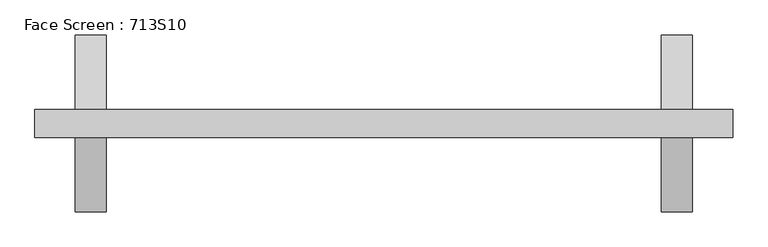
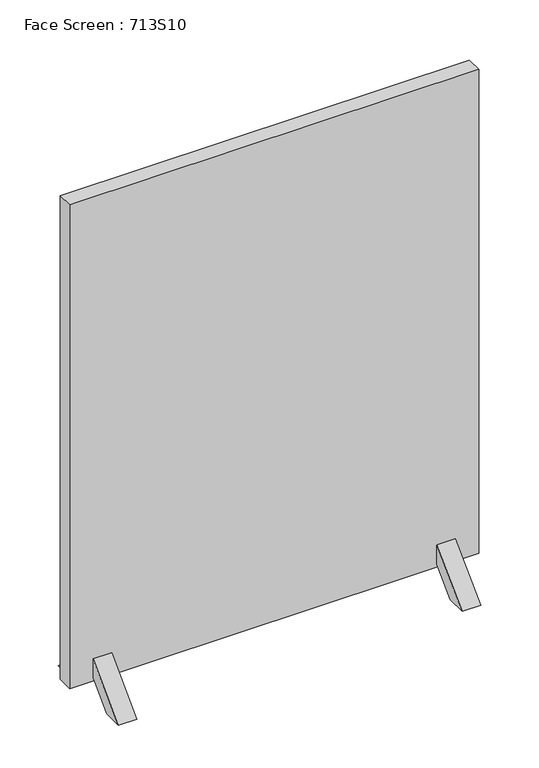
"""IFC4 building model written with IfcOpenShell, lengths in millimetres: furniture geometry, Face Screen : 713S10."""

import ifcopenshell
import ifcopenshell.guid

model = None  # the IFC model being written
_history = None  # IfcOwnerHistory: only IFC2X3 demands one
_inside = {}  # id of a spatial element -> (the spatial element, [elements in it])
_under = {}  # id of a project, library or spatial element -> (it, [spatial elements below it])
_declared = {}  # id of a project -> (the project, [libraries it declares])
_typed = {}  # id of a type object -> (the type object, [elements of that type])
_made_of = {}  # id of a material, layer set ... -> (it, [elements and type objects made of it])


def new_model(schema):
    """Start an empty IFC model of exactly this schema.

    Asked for "IFC4X3", IfcOpenShell would pick the latest addendum, in which some entities
    have other attributes; the version numbers below select the first issue.
    IFC2X3 requires an IfcOwnerHistory on every rooted entity: one is made here for all.
    """
    global model, _history
    if schema == "IFC4X3":
        model = ifcopenshell.file(schema_version=(4, 3, 0, 0))
    else:
        model = ifcopenshell.file(schema=schema)
    _inside.clear()
    _under.clear()
    _declared.clear()
    _typed.clear()
    _made_of.clear()
    _history = None
    if model.schema == "IFC2X3":
        org = make("IfcOrganization", Name="unknown")
        user = make(
            "IfcPersonAndOrganization",
            ThePerson=make("IfcPerson", FamilyName="unknown"),
            TheOrganization=org,
        )
        app = make(
            "IfcApplication",
            ApplicationDeveloper=org,
            Version="unknown",
            ApplicationFullName="unknown",
            ApplicationIdentifier="unknown",
        )
        _history = make(
            "IfcOwnerHistory",
            OwningUser=user,
            OwningApplication=app,
            ChangeAction="ADDED",
            CreationDate=0,
        )
    return model


def make(cls, **values):
    """One entity of the class cls with the attributes given. An attribute that is None is left unset."""
    return model.create_entity(
        cls, **{name: value for name, value in values.items() if value is not None}
    )


def rooted(cls, **values):
    """An entity with a GlobalId (a new one), such as an element, a storey or a relation."""
    return make(cls, GlobalId=ifcopenshell.guid.new(), OwnerHistory=_history, **values)


def si_unit(unit_type, name, prefix=None):
    """IfcSIUnit, for example si_unit("LENGTHUNIT", "METRE", prefix="MILLI")."""
    return make("IfcSIUnit", UnitType=unit_type, Prefix=prefix, Name=name)


def assignment(units):
    """IfcUnitAssignment: the units of a project."""
    return None if units is None else make("IfcUnitAssignment", Units=units)


def point(xyz):
    """IfcCartesianPoint."""
    return None if xyz is None else make("IfcCartesianPoint", Coordinates=xyz)


def direction(xyz):
    """IfcDirection."""
    return None if xyz is None else make("IfcDirection", DirectionRatios=xyz)


def frame(location, z_axis=None, x_axis=None):
    """IfcAxis2Placement3D, a coordinate frame: its origin and axes. An axis left out is left unset."""
    return make(
        "IfcAxis2Placement3D",
        Location=point(location),
        Axis=direction(z_axis),
        RefDirection=direction(x_axis),
    )


def origin():
    """The frame at (0, 0, 0) with its axes left unset."""
    return frame((0.0, 0.0, 0.0))


def place(relative_to, where):
    """IfcLocalPlacement: puts the frame where relative to a parent placement (None: the world)."""
    return make(
        "IfcLocalPlacement", PlacementRelTo=relative_to, RelativePlacement=where
    )


def context(
    kind, dimensions, precision=None, world=None, true_north=None, identifier=None
):
    """IfcGeometricRepresentationContext, for example the 3D "Model" context."""
    return make(
        "IfcGeometricRepresentationContext",
        ContextIdentifier=identifier,
        ContextType=kind,
        CoordinateSpaceDimension=dimensions,
        Precision=precision,
        WorldCoordinateSystem=world,
        TrueNorth=true_north,
    )


def project(units=None, contexts=None):
    """IfcProject with its units and contexts."""
    return rooted(
        "IfcProject",
        Name="project",
        RepresentationContexts=contexts,
        UnitsInContext=assignment(units),
    )


def spatial(cls, under=None, at=None, **own):
    """A site, building, storey or space (cls), placed at a placement, below another one or the project."""
    s = rooted(cls, ObjectPlacement=at, **own)
    if under is not None:
        _under.setdefault(under.id(), (under, []))[1].append(s)
    return s


def polyline(points):
    """IfcPolyline through the points."""
    return make("IfcPolyline", Points=[point(p) for p in points])


def outline(outer, holes=None, kind="AREA"):
    """IfcArbitraryClosedProfileDef: a profile drawn as a closed curve; with holes, ...WithVoids."""
    if holes is None:
        return make("IfcArbitraryClosedProfileDef", ProfileType=kind, OuterCurve=outer)
    return make(
        "IfcArbitraryProfileDefWithVoids",
        ProfileType=kind,
        OuterCurve=outer,
        InnerCurves=holes,
    )


def extrude(swept, where, along, depth):
    """IfcExtrudedAreaSolid: the profile swept, set in the frame where, extruded along a direction by depth."""
    return make(
        "IfcExtrudedAreaSolid",
        SweptArea=swept,
        Position=where,
        ExtrudedDirection=direction(along),
        Depth=depth,
    )


def faces_of(points, faces, orient=None, outer=None):
    """IfcFace entities. A face is a list of loops; a loop is a list of indices into points, from 0.

    orient and outer hold one flag for each loop. By default every Orientation is true, the
    first loop of a face is its IfcFaceOuterBound and the others are IfcFaceBound.
    """
    made = []
    for i, loops in enumerate(faces):
        bounds = []
        for j, loop in enumerate(loops):
            is_outer = j == 0 if outer is None else outer[i][j]
            bounds.append(
                make(
                    "IfcFaceOuterBound" if is_outer else "IfcFaceBound",
                    Bound=make("IfcPolyLoop", Polygon=[points[k] for k in loop]),
                    Orientation=True if orient is None else orient[i][j],
                )
            )
        made.append(make("IfcFace", Bounds=bounds))
    return made


def faceted_brep(points, faces, orient=None, outer=None, voids=None):
    """IfcFacetedBrep: a solid bounded by flat faces; with voids (closed shells), ...WithVoids."""
    shared = [point(p) for p in points]
    hull = make("IfcClosedShell", CfsFaces=faces_of(shared, faces, orient, outer))
    if voids is None:
        return make("IfcFacetedBrep", Outer=hull)
    return make(
        "IfcFacetedBrepWithVoids",
        Outer=hull,
        Voids=[
            make(cls, CfsFaces=faces_of(shared, fs, o, b)) for cls, fs, o, b in voids
        ],
    )


def shape(context_of_items, identifier, shape_type, items):
    """IfcShapeRepresentation: the items that make up one representation, for example the "Body"."""
    return make(
        "IfcShapeRepresentation",
        ContextOfItems=context_of_items,
        RepresentationIdentifier=identifier,
        RepresentationType=shape_type,
        Items=items,
    )


def source(mapping_origin, context_of_items, identifier, shape_type, items):
    """IfcRepresentationMap: a shape defined once, which mapped items show again and again."""
    return make(
        "IfcRepresentationMap",
        MappingOrigin=mapping_origin,
        MappedRepresentation=shape(context_of_items, identifier, shape_type, items),
    )


def transform(
    local_origin,
    x_axis=None,
    y_axis=None,
    z_axis=None,
    scale=None,
    scale2=None,
    scale3=None,
    uniform=True,
):
    """IfcCartesianTransformationOperator3D, or its non-uniform kind. x_axis, y_axis, z_axis: its Axis1, 2, 3."""
    if uniform:
        return make(
            "IfcCartesianTransformationOperator3D",
            Axis1=direction(x_axis),
            Axis2=direction(y_axis),
            LocalOrigin=point(local_origin),
            Scale=scale,
            Axis3=direction(z_axis),
        )
    return make(
        "IfcCartesianTransformationOperator3DnonUniform",
        Axis1=direction(x_axis),
        Axis2=direction(y_axis),
        LocalOrigin=point(local_origin),
        Scale=scale,
        Axis3=direction(z_axis),
        Scale2=scale2,
        Scale3=scale3,
    )


def mapped(mapping_source, mapping_target):
    """IfcMappedItem: shows the shape of a source again, moved by a transform."""
    return make(
        "IfcMappedItem", MappingSource=mapping_source, MappingTarget=mapping_target
    )


def made_of(thing, what):
    """Note that an element or type object is made of a material, layer set ...; save() writes the relation."""
    if what is not None:
        _made_of.setdefault(what.id(), (what, []))[1].append(thing)
    return thing


def element(
    cls,
    number,
    at=None,
    inside=None,
    cuts=None,
    type_object=None,
    material=None,
    context=None,
    identifier="Body",
    shape_type=None,
    held_by="IfcProductDefinitionShape",
    body=None,
    shapes=None,
    **own,
):
    """One element of the class cls, such as IfcWall. Its Tag is "e" and its number.

    at: its placement. inside: the storey or other place that contains it. cuts: it is an
    opening in that element (IfcRelVoidsElement). A single representation is given by context,
    identifier, shape_type and body (its items); several are given by shapes. held_by: the class
    of the entity that holds the representations. save() writes the other relations.
    """
    e = rooted(cls, Tag="e%d" % number, ObjectPlacement=at, **own)
    if body is not None:
        shapes = [shape(context, identifier, shape_type, body)]
    if shapes is not None:
        e.Representation = make(held_by, Representations=shapes)
    if inside is not None:
        _inside.setdefault(inside.id(), (inside, []))[1].append(e)
    if cuts is not None:
        rooted(
            "IfcRelVoidsElement", RelatingBuildingElement=cuts, RelatedOpeningElement=e
        )
    if type_object is not None:
        _typed.setdefault(type_object.id(), (type_object, []))[1].append(e)
    return made_of(e, material)


def aggregate(whole, parts):
    """IfcRelAggregates: a whole, such as a stair, and the parts it consists of."""
    return rooted("IfcRelAggregates", RelatingObject=whole, RelatedObjects=parts)


def save(model, path):
    """Write the relations noted so far, then the file.

    IfcRelAggregates (storeys below a building ...), IfcRelContainedInSpatialStructure (elements
    in a storey), IfcRelDefinesByType, IfcRelAssociatesMaterial and IfcRelDeclares: one each for
    every whole, place, type object, material and project.
    """
    for whole, parts in _under.values():
        aggregate(whole, parts)
    for where, things in _inside.values():
        rooted(
            "IfcRelContainedInSpatialStructure",
            RelatedElements=things,
            RelatingStructure=where,
        )
    for kind, things in _typed.values():
        rooted("IfcRelDefinesByType", RelatedObjects=things, RelatingType=kind)
    for what, things in _made_of.values():
        rooted("IfcRelAssociatesMaterial", RelatedObjects=things, RelatingMaterial=what)
    for by, libraries in _declared.values():
        rooted("IfcRelDeclares", RelatingContext=by, RelatedDefinitions=libraries)
    model.write(path)


def face_screen_713s10_ce27eabc(model_context):
    return source(origin(), model_context, "Body", "SolidModel", [
        faceted_brep([(409.0, 20.0, 50.0955899), (409.0, 20.0, 57.4960966), (409.0, 37.6776695, 39.8184271), (409.0, -37.6776695, 39.8184271), (409.0, -20.0, 57.4960966), (409.0, -20.0, 50.0955899), (397.5, -126.9935713, 0.0), (442.5, -126.9935713, 0.0), (442.5, -20.0, 106.9935713), (397.5, -20.0, 106.9935713), (397.5, -77.4960966, 0.0), (442.5, -77.4960966, 0.0), (397.5, -20.0, 57.4960966), (431.0, -37.6776695, 39.8184271), (431.0, -20.0, 57.4960966), (442.5, -20.0, 57.4960966), (431.0, 20.0, 50.0955899), (431.0, -20.0, 50.0955899), (431.0, 37.6776695, 39.8184271), (431.0, 20.0, 57.4960966), (442.5, 20.0, 57.4960966), (442.5, 20.0, 106.9935713), (397.5, 20.0, 106.9935713), (397.5, 20.0, 57.4960966), (397.5, 126.9935713, 0.0), (397.5, 77.4960966, 0.0), (442.5, 77.4960966, 0.0), (442.5, 126.9935713, 0.0)], [[[0, 1, 2, 3, 4, 5]], [[6, 7, 8, 9]], [[10, 11, 7, 6]], [[12, 4, 3, 13, 14, 15, 11, 10]], [[16, 17, 14, 13, 18, 19]], [[5, 17, 16, 0]], [[4, 12, 9, 8, 15, 14, 17, 5]], [[2, 18, 13, 3]], [[0, 16, 19, 20, 21, 22, 23, 1]], [[22, 24, 25, 23]], [[9, 12, 10, 6]], [[21, 20, 26, 27]], [[8, 7, 11, 15]], [[25, 26, 20, 19, 18, 2, 1, 23]], [[24, 27, 26, 25]], [[22, 21, 27, 24]]]),
        faceted_brep([(-409.0, -20.0, 50.0955899), (-409.0, -20.0, 57.4960966), (-409.0, -37.6776695, 39.8184271), (-409.0, 37.6776695, 39.8184271), (-409.0, 20.0, 57.4960966), (-409.0, 20.0, 50.0955899), (-397.5, 126.9935713, 0.0), (-442.5, 126.9935713, 0.0), (-442.5, 20.0, 106.9935713), (-397.5, 20.0, 106.9935713), (-397.5, 77.4960966, 0.0), (-442.5, 77.4960966, 0.0), (-397.5, 20.0, 57.4960966), (-431.0, 37.6776695, 39.8184271), (-431.0, 20.0, 57.4960966), (-442.5, 20.0, 57.4960966), (-431.0, -20.0, 50.0955899), (-431.0, 20.0, 50.0955899), (-431.0, -37.6776695, 39.8184271), (-431.0, -20.0, 57.4960966), (-442.5, -20.0, 57.4960966), (-442.5, -20.0, 106.9935713), (-397.5, -20.0, 106.9935713), (-397.5, -20.0, 57.4960966), (-397.5, -126.9935713, 0.0), (-397.5, -77.4960966, 0.0), (-442.5, -77.4960966, 0.0), (-442.5, -126.9935713, 0.0)], [[[0, 1, 2, 3, 4, 5]], [[6, 7, 8, 9]], [[10, 11, 7, 6]], [[12, 4, 3, 13, 14, 15, 11, 10]], [[16, 17, 14, 13, 18, 19]], [[5, 17, 16, 0]], [[4, 12, 9, 8, 15, 14, 17, 5]], [[2, 18, 13, 3]], [[0, 16, 19, 20, 21, 22, 23, 1]], [[22, 24, 25, 23]], [[9, 12, 10, 6]], [[21, 20, 26, 27]], [[8, 7, 11, 15]], [[25, 26, 20, 19, 18, 2, 1, 23]], [[24, 27, 26, 25]], [[22, 21, 27, 24]]]),
        extrude(outline(polyline([(500.0, 20.0), (500.0, -20.0), (-500.0, -20.0), (-500.0, 20.0), (500.0, 20.0)])), frame((0.0, 0.0, 50.0), z_axis=(0.0, 0.0, 1.0), x_axis=(1.0, 0.0, 0.0)), (0.0, 0.0, 1.0), 1250.0),
    ])


if __name__ == "__main__":
    model = new_model("IFC4")
    model_context = context("Model", 3, world=origin())
    ifc_project = project(units=[si_unit("LENGTHUNIT", "METRE", prefix="MILLI")], contexts=[model_context])
    site = spatial("IfcSite", under=ifc_project)
    building = spatial("IfcBuilding", under=site)
    placement = place(None, origin())
    face_screen_713s10_shape = face_screen_713s10_ce27eabc(model_context)
    element("IfcFurniture", 1, ObjectType="Face Screen : 713S10", at=placement, inside=building, context=model_context, shape_type="MappedRepresentation", body=[
        mapped(face_screen_713s10_shape, transform((0.0, 0.0, 0.0), x_axis=(1.0, 0.0, 0.0), y_axis=(0.0, 1.0, 0.0), z_axis=(0.0, 0.0, 1.0))),
    ])
    save(model, "model.ifc")
